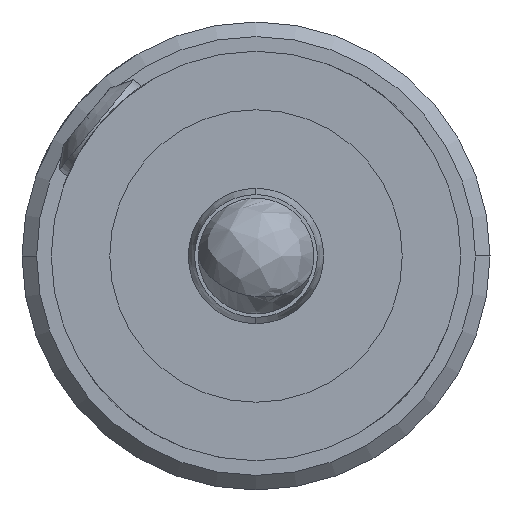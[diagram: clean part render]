
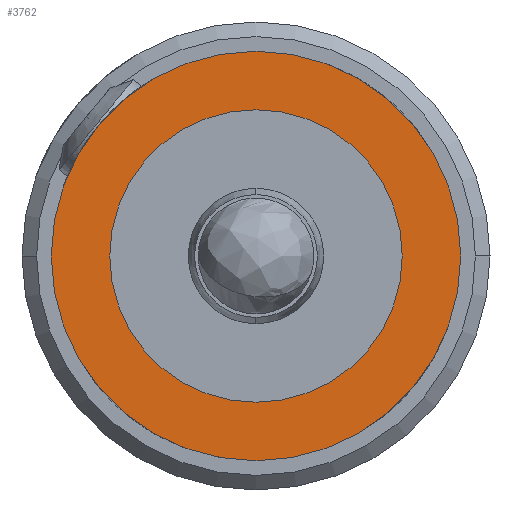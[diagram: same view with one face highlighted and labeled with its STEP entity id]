
A CAD part, left-side view. The second image highlights one B-rep face of the part: STEP entity #3762.
In plain terms, the highlighted planar face has unit normal (-1, 0, 0).
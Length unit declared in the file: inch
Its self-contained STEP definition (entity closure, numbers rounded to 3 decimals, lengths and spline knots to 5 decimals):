
#705 = CARTESIAN_POINT ( 'NONE',  ( -32.38058, -2.8835, 0. ) ) ;
#706 = DIRECTION ( 'NONE',  ( 0., -1., 0. ) ) ;
#707 = DIRECTION ( 'NONE',  ( 1., 0., 0. ) ) ;
#708 = CARTESIAN_POINT ( 'NONE',  ( -32.38058, 4.1165, 0. ) ) ;
#709 = AXIS2_PLACEMENT_3D ( 'NONE', #708, #707, #706 ) ;
#710 = CIRCLE ( 'NONE', #709, 7. ) ;
#3118 = VERTEX_POINT ( 'NONE', #8536 ) ;
#3120 = EDGE_CURVE ( 'NONE', #3118, #3121, #8535, .T. ) ;
#3121 = VERTEX_POINT ( 'NONE', #8530 ) ;
#3224 = VERTEX_POINT ( 'NONE', #8850 ) ;
#3652 = EDGE_CURVE ( 'NONE', #3121, #3118, #10149, .T. ) ;
#3688 = ORIENTED_EDGE ( 'NONE', *, *, #3689, .F. ) ;
#3689 = EDGE_CURVE ( 'NONE', #4725, #3224, #10360, .T. ) ;
#3690 = ORIENTED_EDGE ( 'NONE', *, *, #4724, .F. ) ;
#3691 = EDGE_LOOP ( 'NONE', ( #3692, #3693 ) ) ;
#3692 = ORIENTED_EDGE ( 'NONE', *, *, #3652, .F. ) ;
#3693 = ORIENTED_EDGE ( 'NONE', *, *, #3120, .F. ) ;
#3762 = ADVANCED_FACE ( 'NONE', ( #10614, #10613 ), #10612, .F. ) ;
#3763 = EDGE_LOOP ( 'NONE', ( #3688, #3690 ) ) ;
#4724 = EDGE_CURVE ( 'NONE', #3224, #4725, #710, .T. ) ;
#4725 = VERTEX_POINT ( 'NONE', #705 ) ;
#8530 = CARTESIAN_POINT ( 'NONE',  ( -32.38058, 8.5165, 0. ) ) ;
#8531 = DIRECTION ( 'NONE',  ( 0., 1., 0. ) ) ;
#8532 = DIRECTION ( 'NONE',  ( -1., 0., 0. ) ) ;
#8533 = CARTESIAN_POINT ( 'NONE',  ( -32.38058, 4.1165, 0. ) ) ;
#8534 = AXIS2_PLACEMENT_3D ( 'NONE', #8533, #8532, #8531 ) ;
#8535 = CIRCLE ( 'NONE', #8534, 4.4 ) ;
#8536 = CARTESIAN_POINT ( 'NONE',  ( -32.38058, -0.2835, 0. ) ) ;
#8850 = CARTESIAN_POINT ( 'NONE',  ( -32.38058, 11.1165, 0. ) ) ;
#10145 = DIRECTION ( 'NONE',  ( 0., 1., 0. ) ) ;
#10146 = DIRECTION ( 'NONE',  ( -1., 0., 0. ) ) ;
#10147 = CARTESIAN_POINT ( 'NONE',  ( -32.38058, 4.1165, 0. ) ) ;
#10148 = AXIS2_PLACEMENT_3D ( 'NONE', #10147, #10146, #10145 ) ;
#10149 = CIRCLE ( 'NONE', #10148, 4.4 ) ;
#10356 = DIRECTION ( 'NONE',  ( 0., -1., 0. ) ) ;
#10357 = DIRECTION ( 'NONE',  ( 1., 0., 0. ) ) ;
#10358 = CARTESIAN_POINT ( 'NONE',  ( -32.38058, 4.1165, 0. ) ) ;
#10359 = AXIS2_PLACEMENT_3D ( 'NONE', #10358, #10357, #10356 ) ;
#10360 = CIRCLE ( 'NONE', #10359, 7. ) ;
#10608 = DIRECTION ( 'NONE',  ( 0., 0., -1. ) ) ;
#10609 = DIRECTION ( 'NONE',  ( 1., 0., 0. ) ) ;
#10610 = CARTESIAN_POINT ( 'NONE',  ( -32.38058, 4.1165, 0. ) ) ;
#10611 = AXIS2_PLACEMENT_3D ( 'NONE', #10610, #10609, #10608 ) ;
#10612 = PLANE ( 'NONE',  #10611 ) ;
#10613 = FACE_BOUND ( 'NONE', #3691, .T. ) ;
#10614 = FACE_OUTER_BOUND ( 'NONE', #3763, .T. ) ;
